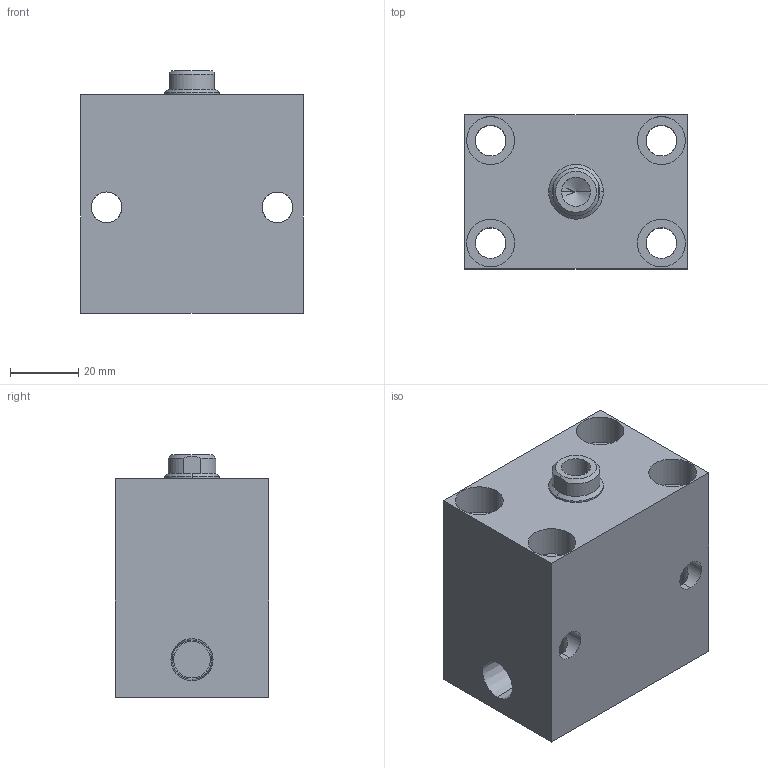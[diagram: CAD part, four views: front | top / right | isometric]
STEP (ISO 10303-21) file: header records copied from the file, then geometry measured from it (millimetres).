
FILE_DESCRIPTION (( 'STEP AP203' ), '1' );
FILE_NAME ('HBC-25S-8N.STEP', '2019-11-29T08:54:24', ( '微软用户' ), ( '微软中国' ), 'SwSTEP 2.0', 'SolidWorks 2012', '' );
FILE_SCHEMA (( 'CONFIG_CONTROL_DESIGN' ));
Length unit declared in the file: millimetre
Products named in the file (3): HBC-25S-8N; HBC-25S-8N活塞杆; HBC-25S-8N掛极
Assembly tree (2 placements, depth 2):
  HBC-25S-8N
    HBC-25S-8N掛极
    HBC-25S-8N活塞杆
Bounding box: 65 x 45 x 71 mm (x, y, z)
Volume: 162473.4 mm3; surface area: 31836.6 mm2
Topology: 2 solids, 2 shells, 73 faces, 178 edges, 107 vertices
Faces by surface type: cylinder 46, plane 19, cone 8
Entity records: 2465 total; most frequent: CARTESIAN_POINT 473, DIRECTION 366, ORIENTED_EDGE 352, EDGE_CURVE 176, AXIS2_PLACEMENT_3D 148, VERTEX_POINT 107, EDGE_LOOP 93, ADVANCED_FACE 73
